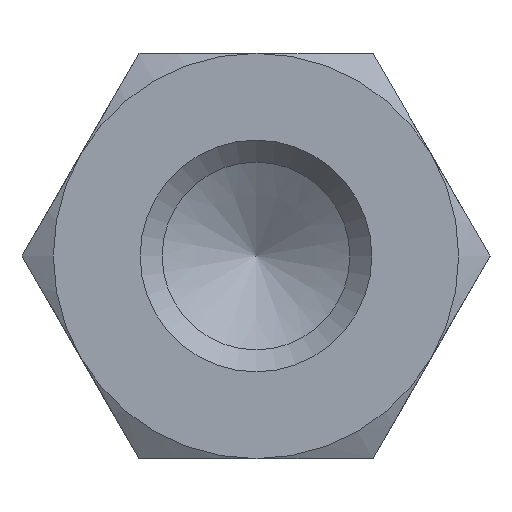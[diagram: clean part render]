
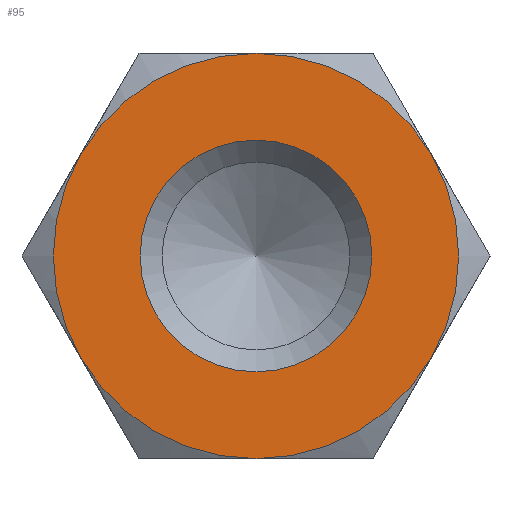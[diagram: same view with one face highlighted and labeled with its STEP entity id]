
A CAD part, left-side view. The second image highlights one B-rep face of the part: STEP entity #95.
In plain terms, the highlighted planar face has unit normal (-1, 0, 0).
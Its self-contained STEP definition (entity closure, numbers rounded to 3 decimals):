
#95 = ADVANCED_FACE( '', ( #147, #148 ), #149, .F. );
#147 = FACE_OUTER_BOUND( '', #206, .T. );
#148 = FACE_BOUND( '', #207, .T. );
#149 = PLANE( '', #208 );
#206 = EDGE_LOOP( '', ( #356, #357, #358, #359, #360, #361 ) );
#207 = EDGE_LOOP( '', ( #362 ) );
#208 = AXIS2_PLACEMENT_3D( '', #363, #364, #365 );
#356 = ORIENTED_EDGE( '', *, *, #440, .F. );
#357 = ORIENTED_EDGE( '', *, *, #425, .F. );
#358 = ORIENTED_EDGE( '', *, *, #441, .F. );
#359 = ORIENTED_EDGE( '', *, *, #437, .F. );
#360 = ORIENTED_EDGE( '', *, *, #442, .F. );
#361 = ORIENTED_EDGE( '', *, *, #443, .F. );
#362 = ORIENTED_EDGE( '', *, *, #439, .T. );
#363 = CARTESIAN_POINT( '', ( -60., 0., 0. ) );
#364 = DIRECTION( '', ( 1., 0., 0. ) );
#365 = DIRECTION( '', ( 0., 0., -1. ) );
#425 = EDGE_CURVE( '', #495, #493, #497, .T. );
#437 = EDGE_CURVE( '', #447, #506, #513, .T. );
#439 = EDGE_CURVE( '', #516, #516, #517, .T. );
#440 = EDGE_CURVE( '', #493, #486, #518, .T. );
#441 = EDGE_CURVE( '', #506, #495, #519, .T. );
#442 = EDGE_CURVE( '', #481, #447, #520, .T. );
#443 = EDGE_CURVE( '', #486, #481, #521, .T. );
#447 = VERTEX_POINT( '', #525 );
#481 = VERTEX_POINT( '', #595 );
#486 = VERTEX_POINT( '', #611 );
#493 = VERTEX_POINT( '', #632 );
#495 = VERTEX_POINT( '', #637 );
#497 = CIRCLE( '', #644, 3.5 );
#506 = VERTEX_POINT( '', #670 );
#513 = CIRCLE( '', #701, 3.5 );
#516 = VERTEX_POINT( '', #704 );
#517 = CIRCLE( '', #705, 2. );
#518 = CIRCLE( '', #706, 3.5 );
#519 = CIRCLE( '', #707, 3.5 );
#520 = CIRCLE( '', #708, 3.5 );
#521 = CIRCLE( '', #709, 3.5 );
#525 = CARTESIAN_POINT( '', ( -60., -3.031, 1.75 ) );
#595 = CARTESIAN_POINT( '', ( -60., 0., 3.5 ) );
#611 = CARTESIAN_POINT( '', ( -60., 3.031, 1.75 ) );
#632 = CARTESIAN_POINT( '', ( -60., 3.031, -1.75 ) );
#637 = CARTESIAN_POINT( '', ( -60., 0., -3.5 ) );
#644 = AXIS2_PLACEMENT_3D( '', #744, #745, #746 );
#670 = CARTESIAN_POINT( '', ( -60., -3.031, -1.75 ) );
#701 = AXIS2_PLACEMENT_3D( '', #749, #750, #751 );
#704 = CARTESIAN_POINT( '', ( -60., 0., -2. ) );
#705 = AXIS2_PLACEMENT_3D( '', #755, #756, #757 );
#706 = AXIS2_PLACEMENT_3D( '', #758, #759, #760 );
#707 = AXIS2_PLACEMENT_3D( '', #761, #762, #763 );
#708 = AXIS2_PLACEMENT_3D( '', #764, #765, #766 );
#709 = AXIS2_PLACEMENT_3D( '', #767, #768, #769 );
#744 = CARTESIAN_POINT( '', ( -60., 0., 0. ) );
#745 = DIRECTION( '', ( 1., 0., 0. ) );
#746 = DIRECTION( '', ( 0., 0., -1. ) );
#749 = CARTESIAN_POINT( '', ( -60., 0., 0. ) );
#750 = DIRECTION( '', ( 1., 0., 0. ) );
#751 = DIRECTION( '', ( 0., 0., -1. ) );
#755 = CARTESIAN_POINT( '', ( -60., 0., 0. ) );
#756 = DIRECTION( '', ( 1., 0., 0. ) );
#757 = DIRECTION( '', ( 0., 0., -1. ) );
#758 = CARTESIAN_POINT( '', ( -60., 0., 0. ) );
#759 = DIRECTION( '', ( 1., 0., 0. ) );
#760 = DIRECTION( '', ( 0., 0., -1. ) );
#761 = CARTESIAN_POINT( '', ( -60., 0., 0. ) );
#762 = DIRECTION( '', ( 1., 0., 0. ) );
#763 = DIRECTION( '', ( 0., 0., -1. ) );
#764 = CARTESIAN_POINT( '', ( -60., 0., 0. ) );
#765 = DIRECTION( '', ( 1., 0., 0. ) );
#766 = DIRECTION( '', ( 0., 0., -1. ) );
#767 = CARTESIAN_POINT( '', ( -60., 0., 0. ) );
#768 = DIRECTION( '', ( 1., 0., 0. ) );
#769 = DIRECTION( '', ( 0., 0., -1. ) );
